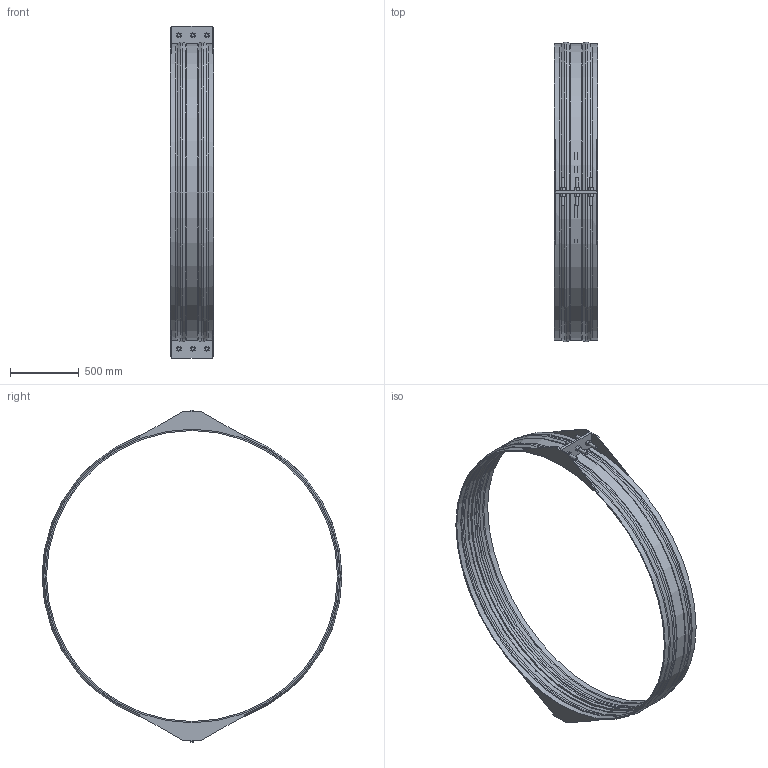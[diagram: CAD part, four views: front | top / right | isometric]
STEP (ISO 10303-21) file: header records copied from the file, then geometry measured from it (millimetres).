
FILE_DESCRIPTION(/* description */ ('VIC SS RESTRAINED COUPLING STYLE 233S (FLEX) (BRD)','CAx-IF Rec.Pracs.---Representation and Presentation of Product Manufacturing Information (PMI)---4.0---2014-10-13'),/* implementation_level */ '2;1');
FILE_NAME(/* name */ 'C:\Users\kkamble\AppData\Roaming\Autodesk\ApplicationPlugins\Back Up\Victaulic_VBSP_Coupling Flexible Restrained_Style 233S (BRD)\Victaulic_VBSP_Coupling Flexible Restrained_Style 233S (BRD)_50psi_84 (2100).stp',/* time_stamp */ '2020-09-22T18:31:23+05:00',/* author */ ('Vjadhav'),/* organization */ ('Victaulic'),/* preprocessor_version */ 'ST-DEVELOPER v17.2',/* originating_system */ 'Autodesk Inventor 2019',/* authorisation */ '');
FILE_SCHEMA (('AP242_MANAGED_MODEL_BASED_3D_ENGINEERING_MIM_LF { 1 0 10303 442 1 1 4 }'));
Length unit declared in the file: inch
Products named in the file (1): Style_233S_Type_2_50psi-84.0
Bounding box: 317.5 x 2179.34 x 2413 mm (x, y, z)
Volume: 26317834.2 mm3; surface area: 5349412.8 mm2
Topology: 1 solids, 1 shells, 211 faces, 557 edges, 374 vertices
Faces by surface type: plane 142, cylinder 39, torus 18, cone 12
Full cylindrical faces by diameter (mm): 22.225 x12, 2114.55 x1, 2133.6 x2, 2139.95 x2
Entity records: 7048 total; most frequent: CARTESIAN_POINT 1352, DIRECTION 1127, ORIENTED_EDGE 1114, EDGE_CURVE 557, LINE 389, VECTOR 389, VERTEX_POINT 374, AXIS2_PLACEMENT_3D 369
